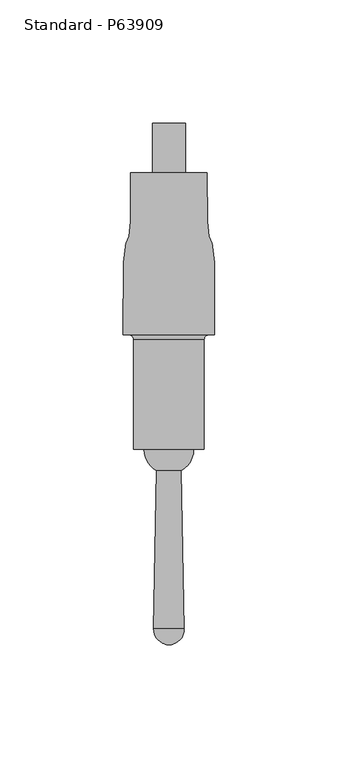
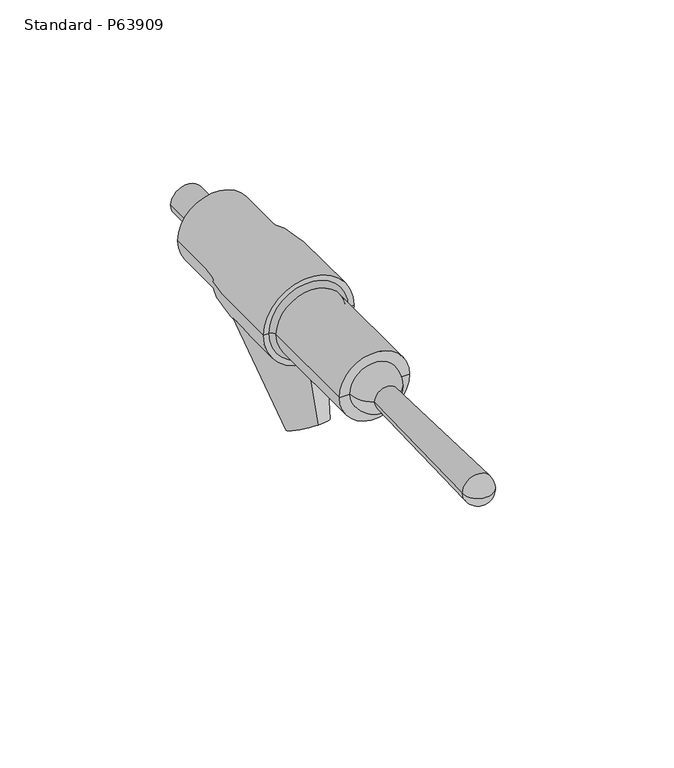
"""IFC4 building model written with IfcOpenShell, lengths in millimetres: flow terminal geometry, Plumbing Fixtures_Tap_Thornthwaite_Presto 704 : Standard - P63909."""

from ifc_helpers import new_model, si_unit, point, frame, origin, place, context, project, spatial, polyline, circle_curve, ellipse_curve, trimmed, source, transform, mapped, element, save
from ifc_brep_helpers import plane_surface, cylinder_surface, revolved_surface, spline_curve, advanced_brep


def standard_p63909_1e119a7e(model_context):
    return source(origin(), model_context, "Body", "AdvancedBrep", [
        advanced_brep(
        [(0.0, 70.687062, 791.2839553), (0.0, 39.2007526, 808.7371017), (0.0, 36.9969577, 751.1320515), (0.0, 23.0030423, 758.8890055)],
        [
            (0, 1, circle_curve(frame((0.0, 54.9439073, 800.0105285), z_axis=(0.0, 0.48480962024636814, 0.8746197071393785), x_axis=(0.0, 0.8746197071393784, -0.48480962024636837)), 18.0)),
            (1, 0, circle_curve(frame((0.0, 54.9439073, 800.0105285), z_axis=(0.0, 0.48480962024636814, 0.8746197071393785), x_axis=(0.0, -0.8746197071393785, 0.4848096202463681)), 18.0)),
            (2, 3, circle_curve(frame((0.0, 30.0, 755.0105285), z_axis=(0.0, -0.48480962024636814, -0.8746197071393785), x_axis=(0.0, -0.8746197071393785, 0.4848096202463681)), 8.0)),
            (3, 2, circle_curve(frame((0.0, 30.0, 755.0105285), z_axis=(0.0, -0.48480962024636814, -0.8746197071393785), x_axis=(0.0, 0.8746197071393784, -0.48480962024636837)), 8.0)),
            (3, 1),
            (0, 2),
        ],
        [
            plane_surface(frame((0.0, 54.9439073, 800.0105285), z_axis=(0.0, 0.48480962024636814, 0.8746197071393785), x_axis=(-1.0, 0.0, 0.0))),
            plane_surface(frame((0.0, 30.0, 755.0105285), z_axis=(0.0, -0.48480962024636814, -0.8746197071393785), x_axis=(-1.0, 0.0, 0.0))),
            revolved_surface(polyline([(0.0, 23.003042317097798, 758.8890054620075), (0.0, 39.2007526, 808.7371017)]), (0.0, 10.0448741, 719.0105285), (0.0, 0.48480962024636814, 0.8746197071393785)),
            revolved_surface(polyline([(0.0, 36.996957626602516, 751.1320515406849), (0.0, 70.68706205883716, 791.2839553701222)]), (0.0, 10.0448741, 719.0105285), (0.0, 0.48480962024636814, 0.8746197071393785)),
        ],
        [
            (0, [[1, 2]]),
            (1, [[3, 4]]),
            (2, [[-4, 5, -1, 6]]),
            (3, [[-3, -6, -2, -5]]),
        ],
    ),
        advanced_brep(
        [(-6.7, 95.0, 800.0), (6.7, 95.0, 800.0), (15.4976897, 95.0, 800.0), (-15.4976897, 95.0, 800.0), (18.5, 29.4814152, 800.0), (-18.5, 29.4814152, 800.0), (16.3100792, 29.4814152, 800.0), (-16.3100792, 29.4814152, 800.0), (-6.7, 115.0, 800.0), (6.7, 115.0, 800.0), (0.0, 115.0, 800.0), (-6.210328, -89.6639489, 800.0), (6.210328, -89.6639489, 800.0), (0.0, -96.0, 800.0), (-4.9274057, -25.6565597, 800.0), (4.9274057, -25.6565597, 800.0), (-10.0, -16.9608372, 800.0), (10.0, -16.9608372, 800.0), (-14.3100792, -16.9608372, 800.0), (14.3100792, -16.9608372, 800.0), (-14.3100792, 27.4814152, 800.0), (14.3100792, 27.4814152, 800.0)],
        [
            (0, 1, circle_curve(frame((0.0, 95.0, 800.0), z_axis=(0.0, -1.0, 0.0), x_axis=(1.0, 0.0, 0.0)), 6.7)),
            (1, 2),
            (2, 3, circle_curve(frame((0.0, 95.0, 800.0), z_axis=(0.0, 1.0, 0.0), x_axis=(1.0, 0.0, 0.0)), 15.4976897)),
            (3, 0),
            (1, 0, circle_curve(frame((0.0, 95.0, 800.0), z_axis=(0.0, -1.0, 0.0), x_axis=(1.0, 0.0, 0.0)), 6.7)),
            (3, 2, circle_curve(frame((0.0, 95.0, 800.0), z_axis=(0.0, 1.0, 0.0), x_axis=(1.0, 0.0, 0.0)), 15.4976897)),
            (2, 4, spline_curve(3, [(15.4976897, 95.0, 800.0), (15.4976897, 74.88766136, 800.0), (15.437063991, 71.549577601, 800.0), (16.490220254, 68.314262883, 800.0), (17.033091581, 67.531234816, 800.0), (18.500000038, 64.100716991, 800.0), (18.5, 60.548295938, 800.0), (18.5, 29.4814152, 800.0)], [4, 2, 2, 4], [0.0, 0.03338728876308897, 0.050115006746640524, 0.09531546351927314])),
            (4, 5, circle_curve(frame((0.0, 29.4814152, 800.0), z_axis=(0.0, 1.0, 0.0), x_axis=(1.0, 0.0, 0.0)), 18.5)),
            (5, 3, spline_curve(3, [(-18.5, 29.4814152, 800.0), (-18.5, 60.548295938, 800.0), (-18.500000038, 64.100716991, 800.0), (-17.033091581, 67.531234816, 800.0), (-16.490220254, 68.314262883, 800.0), (-15.437063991, 71.549577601, 800.0), (-15.4976897, 74.88766136, 800.0), (-15.4976897, 95.0, 800.0)], [4, 2, 2, 4], [0.0, 0.04520045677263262, 0.06192817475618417, 0.09531546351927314])),
            (5, 4, circle_curve(frame((0.0, 29.4814152, 800.0), z_axis=(0.0, 1.0, 0.0), x_axis=(1.0, 0.0, 0.0)), 18.5)),
            (4, 6),
            (6, 7, circle_curve(frame((0.0, 29.4814152, 800.0), z_axis=(0.0, 1.0, 0.0), x_axis=(1.0, 0.0, 0.0)), 16.3100792)),
            (7, 5),
            (7, 6, circle_curve(frame((0.0, 29.4814152, 800.0), z_axis=(0.0, 1.0, 0.0), x_axis=(1.0, 0.0, 0.0)), 16.3100792)),
            (8, 9, circle_curve(frame((0.0, 115.0, 800.0), z_axis=(0.0, -1.0, 0.0), x_axis=(1.0, 0.0, 0.0)), 6.7)),
            (9, 1),
            (0, 8),
            (9, 8, circle_curve(frame((0.0, 115.0, 800.0), z_axis=(0.0, -1.0, 0.0), x_axis=(1.0, 0.0, 0.0)), 6.7)),
            (10, 9),
            (8, 10),
            (11, 12, circle_curve(frame((0.0, -89.6639489, 800.0), z_axis=(0.0, -1.0, 0.0), x_axis=(1.0, 0.0, 0.0)), 6.210328)),
            (12, 13, circle_curve(frame((0.0, -89.7884247, 800.0), z_axis=(0.0, 0.0, -1.0), x_axis=(0.0, -1.0, 0.0)), 6.2115753)),
            (13, 11, circle_curve(frame((0.0, -89.7884247, 800.0), z_axis=(0.0, 0.0, -1.0), x_axis=(0.0, -1.0, 0.0)), 6.2115753)),
            (12, 11, circle_curve(frame((0.0, -89.6639489, 800.0), z_axis=(0.0, -1.0, 0.0), x_axis=(1.0, 0.0, 0.0)), 6.210328)),
            (14, 15, circle_curve(frame((0.0, -25.6565597, 800.0), z_axis=(0.0, -1.0, 0.0), x_axis=(1.0, 0.0, 0.0)), 4.9274057)),
            (15, 12),
            (11, 14),
            (15, 14, circle_curve(frame((0.0, -25.6565597, 800.0), z_axis=(0.0, -1.0, 0.0), x_axis=(1.0, 0.0, 0.0)), 4.9274057)),
            (16, 17, circle_curve(frame((0.0, -16.9608372, 800.0), z_axis=(0.0, -1.0, 0.0), x_axis=(1.0, 0.0, 0.0)), 10.0)),
            (17, 15, circle_curve(frame((0.3675506, -17.1692033, 800.0), z_axis=(0.0, 0.0, -1.0), x_axis=(0.0, -1.0, 0.0)), 9.6347028)),
            (14, 16, circle_curve(frame((-0.3675506, -17.1692033, 800.0), z_axis=(0.0, 0.0, -1.0), x_axis=(0.0, -1.0, 0.0)), 9.6347028)),
            (17, 16, circle_curve(frame((0.0, -16.9608372, 800.0), z_axis=(0.0, -1.0, 0.0), x_axis=(1.0, 0.0, 0.0)), 10.0)),
            (18, 19, circle_curve(frame((0.0, -16.9608372, 800.0), z_axis=(0.0, -1.0, 0.0), x_axis=(1.0, 0.0, 0.0)), 14.3100792)),
            (19, 17),
            (16, 18),
            (19, 18, circle_curve(frame((0.0, -16.9608372, 800.0), z_axis=(0.0, -1.0, 0.0), x_axis=(1.0, 0.0, 0.0)), 14.3100792)),
            (20, 21, circle_curve(frame((0.0, 27.4814152, 800.0), z_axis=(0.0, -1.0, 0.0), x_axis=(1.0, 0.0, 0.0)), 14.3100792)),
            (21, 19),
            (18, 20),
            (21, 20, circle_curve(frame((0.0, 27.4814152, 800.0), z_axis=(0.0, -1.0, 0.0), x_axis=(1.0, 0.0, 0.0)), 14.3100792)),
            (6, 21, circle_curve(frame((16.3100792, 27.4814152, 800.0), z_axis=(0.0, 0.0, 1.0), x_axis=(0.0, -1.0, 0.0)), 2.0)),
            (20, 7, circle_curve(frame((-16.3100792, 27.4814152, 800.0), z_axis=(0.0, 0.0, 1.0), x_axis=(0.0, -1.0, 0.0)), 2.0)),
        ],
        [
            plane_surface(frame((0.0, 95.0, 800.0), z_axis=(0.0, 1.0, 0.0), x_axis=(1.0, 0.0, 0.0))),
            revolved_surface(spline_curve(3, [(18.5, 29.4814152, 800.0), (18.5, 60.548295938, 800.0), (18.500000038, 64.100716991, 800.0), (17.033091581, 67.531234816, 800.0), (16.490220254, 68.314262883, 800.0), (15.437063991, 71.549577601, 800.0), (15.4976897, 74.88766136, 800.0), (15.4976897, 95.0, 800.0)], [4, 2, 2, 4], [0.0, 0.04520045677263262, 0.06192817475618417, 0.09531546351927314]), (0.0, -1902.4649056, 800.0), (0.0, 1.0, 0.0)),
            plane_surface(frame((0.0, 29.4814152, 800.0), z_axis=(0.0, -1.0, 0.0), x_axis=(1.0, 0.0, 0.0))),
            cylinder_surface(frame((0.0, -1902.4649056, 800.0), z_axis=(0.0, 1.0, 0.0), x_axis=(1.0, 0.0, 0.0)), 6.7),
            plane_surface(frame((0.0, 115.0, 800.0), z_axis=(0.0, 1.0, 0.0), x_axis=(1.0, 0.0, 0.0))),
            revolved_surface(trimmed(ellipse_curve(frame((0.0, -89.7884247, 800.0), z_axis=(0.0, 0.0, 1.0), x_axis=(0.0, -1.0, 0.0)), 6.2115753, 6.2115753), [point((0.0, -96.0, 800.0))], [point((6.210328, -89.6639489, 800.0))], True, "CARTESIAN"), (0.0, -1902.4649056, 800.0), (0.0, 1.0, 0.0)),
            revolved_surface(polyline([(6.210328, -89.6639489, 800.0), (4.9274057, -25.6565597, 800.0)]), (0.0, -1902.4649056, 800.0), (0.0, 1.0, 0.0)),
            revolved_surface(trimmed(ellipse_curve(frame((0.3675506, -17.1692033, 800.0), z_axis=(0.0, 0.0, 1.0), x_axis=(0.0, -1.0, 0.0)), 9.6347028, 9.6347028), [point((4.9274057, -25.6565597, 800.0))], [point((10.0, -16.9608372, 800.0))], True, "CARTESIAN"), (0.0, -1902.4649056, 800.0), (0.0, 1.0, 0.0)),
            plane_surface(frame((0.0, -16.9608372, 800.0), z_axis=(0.0, -1.0, 0.0), x_axis=(1.0, 0.0, 0.0))),
            cylinder_surface(frame((0.0, -1902.4649056, 800.0), z_axis=(0.0, 1.0, 0.0), x_axis=(1.0, 0.0, 0.0)), 14.3100792),
            revolved_surface(trimmed(ellipse_curve(frame((16.3100792, 27.4814152, 800.0), z_axis=(0.0, 0.0, -1.0), x_axis=(0.0, -1.0, 0.0)), 2.0, 2.0), [point((14.3100792, 27.4814152, 800.0))], [point((16.3100792, 29.4814152, 800.0))], True, "CARTESIAN"), (0.0, -1902.4649056, 800.0), (0.0, 1.0, 0.0)),
        ],
        [
            (0, [[1, 2, 3, 4]]),
            (0, [[5, -4, 6, -2]]),
            (1, [[-3, 7, 8, 9]]),
            (1, [[-6, -9, 10, -7]]),
            (2, [[-8, 11, 12, 13]]),
            (2, [[-10, -13, 14, -11]]),
            (3, [[15, 16, -1, 17]]),
            (3, [[18, -17, -5, -16]]),
            (4, [[19, -15, 20]]),
            (4, [[-20, -18, -19]]),
            (5, [[21, 22, 23]]),
            (5, [[24, -23, -22]]),
            (6, [[25, 26, -21, 27]]),
            (6, [[28, -27, -24, -26]]),
            (7, [[29, 30, -25, 31]]),
            (7, [[32, -31, -28, -30]]),
            (8, [[33, 34, -29, 35]]),
            (8, [[36, -35, -32, -34]]),
            (9, [[37, 38, -33, 39]]),
            (9, [[40, -39, -36, -38]]),
            (10, [[-12, 41, -37, 42]]),
            (10, [[-14, -42, -40, -41]]),
        ],
    ),
    ])


if __name__ == "__main__":
    model = new_model("IFC4")
    model_context = context("Model", 3, world=origin())
    ifc_project = project(units=[si_unit("LENGTHUNIT", "METRE", prefix="MILLI")], contexts=[model_context])
    site = spatial("IfcSite", under=ifc_project)
    building = spatial("IfcBuilding", under=site)
    placement = place(None, origin())
    standard_p63909_shape = standard_p63909_1e119a7e(model_context)
    element("IfcFlowTerminal", 1, ObjectType="Plumbing Fixtures_Tap_Thornthwaite_Presto 704 : Standard - P63909", at=placement, inside=building, context=model_context, shape_type="MappedRepresentation", body=[
        mapped(standard_p63909_shape, transform((0.0, 0.0, 0.0), x_axis=(1.0, 0.0, 0.0), y_axis=(0.0, 1.0, 0.0), z_axis=(0.0, 0.0, 1.0))),
    ])
    save(model, "model.ifc")
